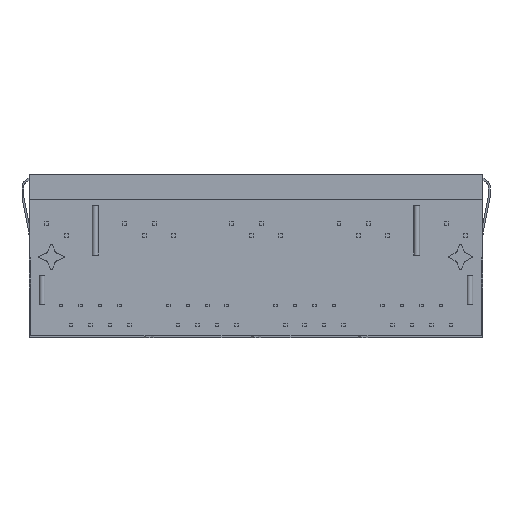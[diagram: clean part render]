
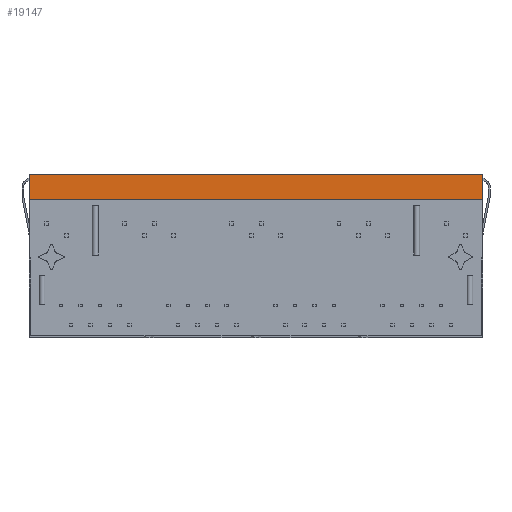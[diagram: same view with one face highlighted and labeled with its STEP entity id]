
A CAD part, front view. The second image highlights one B-rep face of the part: STEP entity #19147.
In plain terms, the highlighted planar face has unit normal (0, -1, 0).
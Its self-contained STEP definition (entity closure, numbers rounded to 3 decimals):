
#100=DIRECTION('',(0.,0.,-1.));
#101=VECTOR('',#100,3.302);
#102=CARTESIAN_POINT('',(-29.591,0.132,0.));
#103=LINE('',#102,#101);
#3560=DIRECTION('',(0.,0.,-1.));
#3561=VECTOR('',#3560,3.302);
#3562=CARTESIAN_POINT('',(29.591,0.132,0.));
#3563=LINE('',#3562,#3561);
#3672=DIRECTION('',(1.,0.,0.));
#3673=VECTOR('',#3672,59.182);
#3674=CARTESIAN_POINT('',(-29.591,0.132,-3.302));
#3675=LINE('',#3674,#3673);
#3676=DIRECTION('',(1.,0.,0.));
#3677=VECTOR('',#3676,59.182);
#3678=CARTESIAN_POINT('',(-29.591,0.132,0.));
#3679=LINE('',#3678,#3677);
#10355=CARTESIAN_POINT('',(-29.591,0.132,0.));
#10357=VERTEX_POINT('',#10355);
#10361=CARTESIAN_POINT('',(29.591,0.132,0.));
#10363=VERTEX_POINT('',#10361);
#10366=CARTESIAN_POINT('',(-29.591,0.132,-3.302));
#10367=VERTEX_POINT('',#10366);
#10370=CARTESIAN_POINT('',(29.591,0.132,-3.302));
#10371=VERTEX_POINT('',#10370);
#19135=CARTESIAN_POINT('',(-29.591,0.132,0.));
#19136=DIRECTION('',(0.,-1.,0.));
#19137=DIRECTION('',(0.,0.,-1.));
#19138=AXIS2_PLACEMENT_3D('',#19135,#19136,#19137);
#19139=PLANE('',#19138);
#19140=ORIENTED_EDGE('',*,*,#13721,.F.);
#19142=ORIENTED_EDGE('',*,*,#19141,.T.);
#19143=ORIENTED_EDGE('',*,*,#18988,.T.);
#19144=ORIENTED_EDGE('',*,*,#19128,.F.);
#19145=EDGE_LOOP('',(#19140,#19142,#19143,#19144));
#19146=FACE_OUTER_BOUND('',#19145,.F.);
#19147=ADVANCED_FACE('',(#19146),#19139,.T.);
#13721=EDGE_CURVE('',#10357,#10367,#103,.T.);
#18988=EDGE_CURVE('',#10363,#10371,#3563,.T.);
#19128=EDGE_CURVE('',#10367,#10371,#3675,.T.);
#19141=EDGE_CURVE('',#10357,#10363,#3679,.T.);
